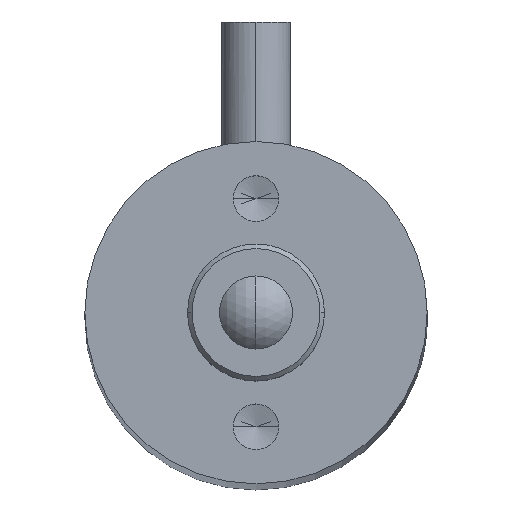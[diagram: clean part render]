
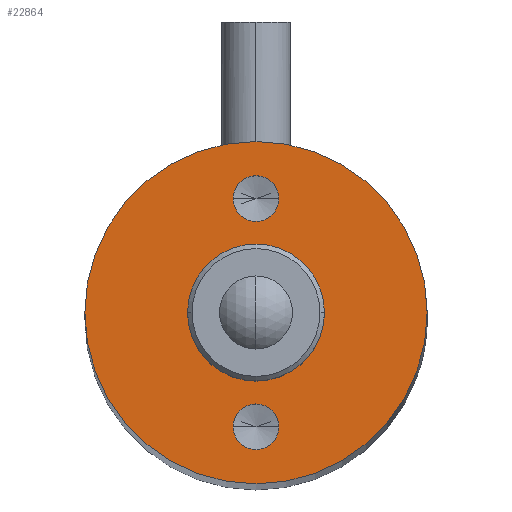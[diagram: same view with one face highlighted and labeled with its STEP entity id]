
A CAD part, top view. The second image highlights one B-rep face of the part: STEP entity #22864.
In plain terms, the highlighted planar face has unit normal (0, 0, 1).
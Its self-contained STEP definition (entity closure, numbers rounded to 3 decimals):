
#23 = EDGE_CURVE ( 'NONE', #23699, #16836, #11786, .T. ) ;
#362 = ORIENTED_EDGE ( 'NONE', *, *, #33025, .F. ) ;
#401 = CARTESIAN_POINT ( 'NONE',  ( -3., 0., 154.6 ) ) ;
#448 = CARTESIAN_POINT ( 'NONE',  ( 0., 0., 154.6 ) ) ;
#999 = EDGE_LOOP ( 'NONE', ( #24615, #27455 ) ) ;
#1466 = DIRECTION ( 'NONE',  ( 1., 0., 0. ) ) ;
#2062 = DIRECTION ( 'NONE',  ( 1., 0., 0. ) ) ;
#2128 = CARTESIAN_POINT ( 'NONE',  ( -1., -5., 154.6 ) ) ;
#3630 = CARTESIAN_POINT ( 'NONE',  ( 0., 0., 154.6 ) ) ;
#3760 = DIRECTION ( 'NONE',  ( 1., 0., 0. ) ) ;
#3784 = CIRCLE ( 'NONE', #10599, 1. ) ;
#4604 = AXIS2_PLACEMENT_3D ( 'NONE', #8133, #24761, #24897 ) ;
#4646 = DIRECTION ( 'NONE',  ( 0., 0., 1. ) ) ;
#5063 = VERTEX_POINT ( 'NONE', #35524 ) ;
#5397 = VERTEX_POINT ( 'NONE', #33560 ) ;
#6059 = ORIENTED_EDGE ( 'NONE', *, *, #15445, .F. ) ;
#6410 = CIRCLE ( 'NONE', #31558, 3. ) ;
#6641 = EDGE_LOOP ( 'NONE', ( #6059, #362 ) ) ;
#6680 = DIRECTION ( 'NONE',  ( 1., 0., 0. ) ) ;
#7000 = AXIS2_PLACEMENT_3D ( 'NONE', #21265, #15027, #1466 ) ;
#7658 = VERTEX_POINT ( 'NONE', #8885 ) ;
#8133 = CARTESIAN_POINT ( 'NONE',  ( 0., -5., 154.6 ) ) ;
#8885 = CARTESIAN_POINT ( 'NONE',  ( 1., -5., 154.6 ) ) ;
#9619 = VERTEX_POINT ( 'NONE', #401 ) ;
#9916 = EDGE_CURVE ( 'NONE', #5397, #15462, #38523, .T. ) ;
#10318 = DIRECTION ( 'NONE',  ( 0., 0., 1. ) ) ;
#10599 = AXIS2_PLACEMENT_3D ( 'NONE', #20432, #13659, #30438 ) ;
#10905 = CARTESIAN_POINT ( 'NONE',  ( 0., 5., 154.6 ) ) ;
#11786 = CIRCLE ( 'NONE', #19907, 1. ) ;
#12314 = EDGE_CURVE ( 'NONE', #9619, #5063, #6410, .T. ) ;
#13659 = DIRECTION ( 'NONE',  ( 0., 0., 1. ) ) ;
#14881 = ORIENTED_EDGE ( 'NONE', *, *, #14965, .F. ) ;
#14965 = EDGE_CURVE ( 'NONE', #16836, #23699, #24561, .T. ) ;
#15027 = DIRECTION ( 'NONE',  ( 0., 0., 1. ) ) ;
#15445 = EDGE_CURVE ( 'NONE', #7658, #33701, #3784, .T. ) ;
#15462 = VERTEX_POINT ( 'NONE', #27084 ) ;
#15859 = DIRECTION ( 'NONE',  ( 1., 0., 0. ) ) ;
#16836 = VERTEX_POINT ( 'NONE', #19682 ) ;
#17022 = DIRECTION ( 'NONE',  ( 0., 0., 1. ) ) ;
#17025 = DIRECTION ( 'NONE',  ( 1., 0., 0. ) ) ;
#17952 = AXIS2_PLACEMENT_3D ( 'NONE', #22410, #35446, #15859 ) ;
#18065 = CIRCLE ( 'NONE', #4604, 1. ) ;
#18147 = CIRCLE ( 'NONE', #39170, 3. ) ;
#18481 = ORIENTED_EDGE ( 'NONE', *, *, #12314, .F. ) ;
#19027 = AXIS2_PLACEMENT_3D ( 'NONE', #448, #17022, #3760 ) ;
#19674 = CARTESIAN_POINT ( 'NONE',  ( 0., 0., 154.6 ) ) ;
#19682 = CARTESIAN_POINT ( 'NONE',  ( -1., 5., 154.6 ) ) ;
#19907 = AXIS2_PLACEMENT_3D ( 'NONE', #10905, #4646, #37480 ) ;
#20255 = FACE_BOUND ( 'NONE', #42623, .T. ) ;
#20432 = CARTESIAN_POINT ( 'NONE',  ( 0., -5., 154.6 ) ) ;
#21125 = AXIS2_PLACEMENT_3D ( 'NONE', #3630, #10318, #17025 ) ;
#21265 = CARTESIAN_POINT ( 'NONE',  ( 0., 0., 154.6 ) ) ;
#22155 = CARTESIAN_POINT ( 'NONE',  ( 0., 0., 154.6 ) ) ;
#22410 = CARTESIAN_POINT ( 'NONE',  ( 0., 5., 154.6 ) ) ;
#22846 = FACE_BOUND ( 'NONE', #6641, .T. ) ;
#22864 = ADVANCED_FACE ( 'NONE', ( #22846, #26970, #20255, #39918 ), #41037, .T. ) ;
#23699 = VERTEX_POINT ( 'NONE', #29092 ) ;
#24561 = CIRCLE ( 'NONE', #17952, 1. ) ;
#24615 = ORIENTED_EDGE ( 'NONE', *, *, #41061, .T. ) ;
#24761 = DIRECTION ( 'NONE',  ( 0., 0., 1. ) ) ;
#24897 = DIRECTION ( 'NONE',  ( 1., 0., 0. ) ) ;
#25471 = EDGE_CURVE ( 'NONE', #5063, #9619, #18147, .T. ) ;
#26970 = FACE_BOUND ( 'NONE', #29693, .T. ) ;
#27084 = CARTESIAN_POINT ( 'NONE',  ( -7.5, 0., 154.6 ) ) ;
#27455 = ORIENTED_EDGE ( 'NONE', *, *, #9916, .T. ) ;
#29092 = CARTESIAN_POINT ( 'NONE',  ( 1., 5., 154.6 ) ) ;
#29693 = EDGE_LOOP ( 'NONE', ( #32362, #14881 ) ) ;
#30438 = DIRECTION ( 'NONE',  ( 1., 0., 0. ) ) ;
#31558 = AXIS2_PLACEMENT_3D ( 'NONE', #19674, #36478, #6680 ) ;
#32362 = ORIENTED_EDGE ( 'NONE', *, *, #23, .F. ) ;
#33025 = EDGE_CURVE ( 'NONE', #33701, #7658, #18065, .T. ) ;
#33560 = CARTESIAN_POINT ( 'NONE',  ( 7.5, 0., 154.6 ) ) ;
#33701 = VERTEX_POINT ( 'NONE', #2128 ) ;
#35446 = DIRECTION ( 'NONE',  ( 0., 0., 1. ) ) ;
#35524 = CARTESIAN_POINT ( 'NONE',  ( 3., 0., 154.6 ) ) ;
#36478 = DIRECTION ( 'NONE',  ( 0., 0., 1. ) ) ;
#37480 = DIRECTION ( 'NONE',  ( 1., 0., 0. ) ) ;
#38205 = DIRECTION ( 'NONE',  ( 0., 0., 1. ) ) ;
#38523 = CIRCLE ( 'NONE', #19027, 7.5 ) ;
#38693 = ORIENTED_EDGE ( 'NONE', *, *, #25471, .F. ) ;
#39170 = AXIS2_PLACEMENT_3D ( 'NONE', #22155, #38205, #2062 ) ;
#39671 = CIRCLE ( 'NONE', #21125, 7.5 ) ;
#39918 = FACE_OUTER_BOUND ( 'NONE', #999, .T. ) ;
#41037 = PLANE ( 'NONE',  #7000 ) ;
#41061 = EDGE_CURVE ( 'NONE', #15462, #5397, #39671, .T. ) ;
#42623 = EDGE_LOOP ( 'NONE', ( #18481, #38693 ) ) ;
